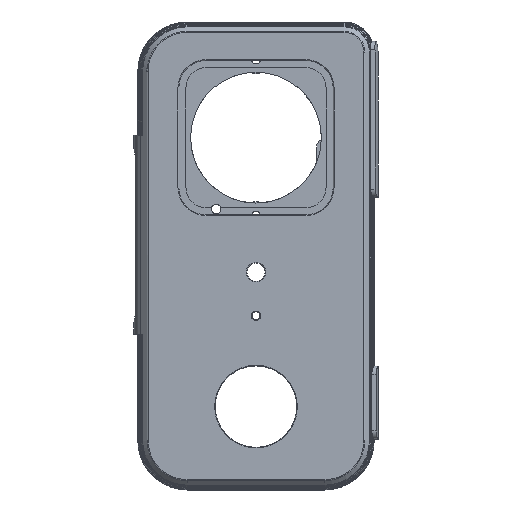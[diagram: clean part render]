
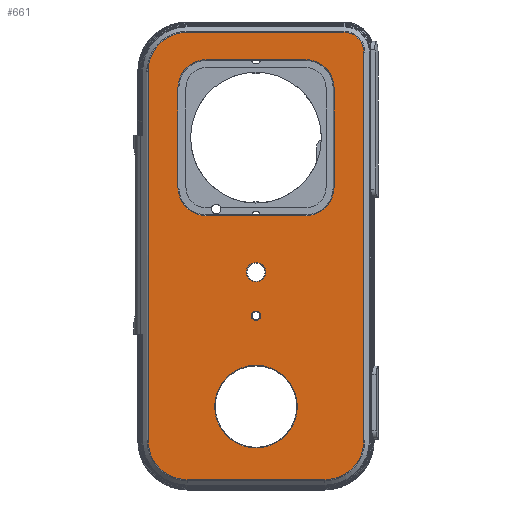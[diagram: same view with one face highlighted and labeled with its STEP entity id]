
A CAD part, top view. The second image highlights one B-rep face of the part: STEP entity #661.
In plain terms, the highlighted planar face has unit normal (0, 0, 1).
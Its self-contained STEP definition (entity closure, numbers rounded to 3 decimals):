
#129 = VERTEX_POINT('',#130);
#130 = CARTESIAN_POINT('',(21.,130.,19.4));
#138 = VERTEX_POINT('',#139);
#139 = CARTESIAN_POINT('',(51.,130.,19.4));
#145 = EDGE_CURVE('',#129,#138,#146,.T.);
#146 = LINE('',#147,#148);
#147 = CARTESIAN_POINT('',(21.,130.,19.4));
#148 = VECTOR('',#149,1.);
#149 = DIRECTION('',(1.,0.,0.));
#594 = VERTEX_POINT('',#595);
#595 = CARTESIAN_POINT('',(59.5,121.5,19.4));
#601 = EDGE_CURVE('',#138,#594,#602,.T.);
#602 = CIRCLE('',#603,8.5);
#603 = AXIS2_PLACEMENT_3D('',#604,#605,#606);
#604 = CARTESIAN_POINT('',(51.,121.5,19.4));
#605 = DIRECTION('',(0.,0.,-1.));
#606 = DIRECTION('',(0.,1.,0.));
#641 = VERTEX_POINT('',#642);
#642 = CARTESIAN_POINT('',(12.5,121.5,19.4));
#650 = EDGE_CURVE('',#641,#129,#651,.T.);
#651 = CIRCLE('',#652,8.5);
#652 = AXIS2_PLACEMENT_3D('',#653,#654,#655);
#653 = CARTESIAN_POINT('',(21.,121.5,19.4));
#654 = DIRECTION('',(0.,0.,-1.));
#655 = DIRECTION('',(-1.,0.,0.));
#661 = ADVANCED_FACE('',(#662,#707,#813,#824,#835),#846,.T.);
#662 = FACE_BOUND('',#663,.T.);
#663 = EDGE_LOOP('',(#664,#665,#666,#674,#683,#691,#700,#706));
#664 = ORIENTED_EDGE('',*,*,#145,.T.);
#665 = ORIENTED_EDGE('',*,*,#601,.T.);
#666 = ORIENTED_EDGE('',*,*,#667,.T.);
#667 = EDGE_CURVE('',#594,#668,#670,.T.);
#668 = VERTEX_POINT('',#669);
#669 = CARTESIAN_POINT('',(59.5,91.5,19.4));
#670 = LINE('',#671,#672);
#671 = CARTESIAN_POINT('',(59.5,121.5,19.4));
#672 = VECTOR('',#673,1.);
#673 = DIRECTION('',(0.,-1.,0.));
#674 = ORIENTED_EDGE('',*,*,#675,.T.);
#675 = EDGE_CURVE('',#668,#676,#678,.T.);
#676 = VERTEX_POINT('',#677);
#677 = CARTESIAN_POINT('',(51.,83.,19.4));
#678 = CIRCLE('',#679,8.5);
#679 = AXIS2_PLACEMENT_3D('',#680,#681,#682);
#680 = CARTESIAN_POINT('',(51.,91.5,19.4));
#681 = DIRECTION('',(0.,0.,-1.));
#682 = DIRECTION('',(1.,0.,0.));
#683 = ORIENTED_EDGE('',*,*,#684,.T.);
#684 = EDGE_CURVE('',#676,#685,#687,.T.);
#685 = VERTEX_POINT('',#686);
#686 = CARTESIAN_POINT('',(21.,83.,19.4));
#687 = LINE('',#688,#689);
#688 = CARTESIAN_POINT('',(51.,83.,19.4));
#689 = VECTOR('',#690,1.);
#690 = DIRECTION('',(-1.,-0.,-0.));
#691 = ORIENTED_EDGE('',*,*,#692,.T.);
#692 = EDGE_CURVE('',#685,#693,#695,.T.);
#693 = VERTEX_POINT('',#694);
#694 = CARTESIAN_POINT('',(12.5,91.5,19.4));
#695 = CIRCLE('',#696,8.5);
#696 = AXIS2_PLACEMENT_3D('',#697,#698,#699);
#697 = CARTESIAN_POINT('',(21.,91.5,19.4));
#698 = DIRECTION('',(-0.,-0.,-1.));
#699 = DIRECTION('',(0.,-1.,0.));
#700 = ORIENTED_EDGE('',*,*,#701,.T.);
#701 = EDGE_CURVE('',#693,#641,#702,.T.);
#702 = LINE('',#703,#704);
#703 = CARTESIAN_POINT('',(12.5,91.5,19.4));
#704 = VECTOR('',#705,1.);
#705 = DIRECTION('',(0.,1.,0.));
#706 = ORIENTED_EDGE('',*,*,#650,.T.);
#707 = FACE_BOUND('',#708,.T.);
#708 = EDGE_LOOP('',(#709,#720,#728,#737,#745,#754,#762,#771,#779,#788,
    #797,#806));
#709 = ORIENTED_EDGE('',*,*,#710,.F.);
#710 = EDGE_CURVE('',#711,#713,#715,.T.);
#711 = VERTEX_POINT('',#712);
#712 = CARTESIAN_POINT('',(3.516,126.5,19.4));
#713 = VERTEX_POINT('',#714);
#714 = CARTESIAN_POINT('',(3.516,126.541,19.4));
#715 = CIRCLE('',#716,11.734);
#716 = AXIS2_PLACEMENT_3D('',#717,#718,#719);
#717 = CARTESIAN_POINT('',(15.25,126.5,19.4));
#718 = DIRECTION('',(0.,-0.,-1.));
#719 = DIRECTION('',(-1.,0.,0.));
#720 = ORIENTED_EDGE('',*,*,#721,.F.);
#721 = EDGE_CURVE('',#722,#711,#724,.T.);
#722 = VERTEX_POINT('',#723);
#723 = CARTESIAN_POINT('',(3.516,15.25,19.4));
#724 = LINE('',#725,#726);
#725 = CARTESIAN_POINT('',(3.516,15.25,19.4));
#726 = VECTOR('',#727,1.);
#727 = DIRECTION('',(0.,1.,0.));
#728 = ORIENTED_EDGE('',*,*,#729,.F.);
#729 = EDGE_CURVE('',#730,#722,#732,.T.);
#730 = VERTEX_POINT('',#731);
#731 = CARTESIAN_POINT('',(15.25,3.516,19.4));
#732 = CIRCLE('',#733,11.734);
#733 = AXIS2_PLACEMENT_3D('',#734,#735,#736);
#734 = CARTESIAN_POINT('',(15.25,15.25,19.4));
#735 = DIRECTION('',(0.,-0.,-1.));
#736 = DIRECTION('',(0.,-1.,0.));
#737 = ORIENTED_EDGE('',*,*,#738,.F.);
#738 = EDGE_CURVE('',#739,#730,#741,.T.);
#739 = VERTEX_POINT('',#740);
#740 = CARTESIAN_POINT('',(56.75,3.516,19.4));
#741 = LINE('',#742,#743);
#742 = CARTESIAN_POINT('',(56.75,3.516,19.4));
#743 = VECTOR('',#744,1.);
#744 = DIRECTION('',(-1.,0.,-0.));
#745 = ORIENTED_EDGE('',*,*,#746,.F.);
#746 = EDGE_CURVE('',#747,#739,#749,.T.);
#747 = VERTEX_POINT('',#748);
#748 = CARTESIAN_POINT('',(68.484,15.25,19.4));
#749 = CIRCLE('',#750,11.734);
#750 = AXIS2_PLACEMENT_3D('',#751,#752,#753);
#751 = CARTESIAN_POINT('',(56.75,15.25,19.4));
#752 = DIRECTION('',(0.,0.,-1.));
#753 = DIRECTION('',(1.,0.,0.));
#754 = ORIENTED_EDGE('',*,*,#755,.F.);
#755 = EDGE_CURVE('',#756,#747,#758,.T.);
#756 = VERTEX_POINT('',#757);
#757 = CARTESIAN_POINT('',(68.484,132.25,19.4));
#758 = LINE('',#759,#760);
#759 = CARTESIAN_POINT('',(68.484,126.5,19.4));
#760 = VECTOR('',#761,1.);
#761 = DIRECTION('',(0.,-1.,0.));
#762 = ORIENTED_EDGE('',*,*,#763,.F.);
#763 = EDGE_CURVE('',#764,#756,#766,.T.);
#764 = VERTEX_POINT('',#765);
#765 = CARTESIAN_POINT('',(62.5,138.234,19.4));
#766 = CIRCLE('',#767,5.984);
#767 = AXIS2_PLACEMENT_3D('',#768,#769,#770);
#768 = CARTESIAN_POINT('',(62.5,132.25,19.4));
#769 = DIRECTION('',(0.,0.,-1.));
#770 = DIRECTION('',(0.,1.,-0.));
#771 = ORIENTED_EDGE('',*,*,#772,.F.);
#772 = EDGE_CURVE('',#773,#764,#775,.T.);
#773 = VERTEX_POINT('',#774);
#774 = CARTESIAN_POINT('',(15.25,138.234,19.4));
#775 = LINE('',#776,#777);
#776 = CARTESIAN_POINT('',(9.5,138.234,19.4));
#777 = VECTOR('',#778,1.);
#778 = DIRECTION('',(1.,0.,0.));
#779 = ORIENTED_EDGE('',*,*,#780,.F.);
#780 = EDGE_CURVE('',#781,#773,#783,.T.);
#781 = VERTEX_POINT('',#782);
#782 = CARTESIAN_POINT('',(3.678,128.443,19.4));
#783 = CIRCLE('',#784,11.734);
#784 = AXIS2_PLACEMENT_3D('',#785,#786,#787);
#785 = CARTESIAN_POINT('',(15.25,126.5,19.4));
#786 = DIRECTION('',(0.,-0.,-1.));
#787 = DIRECTION('',(-1.,0.,0.));
#788 = ORIENTED_EDGE('',*,*,#789,.F.);
#789 = EDGE_CURVE('',#790,#781,#792,.T.);
#790 = VERTEX_POINT('',#791);
#791 = CARTESIAN_POINT('',(3.605,127.943,19.4));
#792 = CIRCLE('',#793,11.734);
#793 = AXIS2_PLACEMENT_3D('',#794,#795,#796);
#794 = CARTESIAN_POINT('',(15.25,126.5,19.4));
#795 = DIRECTION('',(0.,-0.,-1.));
#796 = DIRECTION('',(-1.,0.,0.));
#797 = ORIENTED_EDGE('',*,*,#798,.F.);
#798 = EDGE_CURVE('',#799,#790,#801,.T.);
#799 = VERTEX_POINT('',#800);
#800 = CARTESIAN_POINT('',(3.531,127.08,19.4));
#801 = CIRCLE('',#802,11.734);
#802 = AXIS2_PLACEMENT_3D('',#803,#804,#805);
#803 = CARTESIAN_POINT('',(15.25,126.5,19.4));
#804 = DIRECTION('',(0.,0.,-1.));
#805 = DIRECTION('',(-1.,0.,0.));
#806 = ORIENTED_EDGE('',*,*,#807,.F.);
#807 = EDGE_CURVE('',#713,#799,#808,.T.);
#808 = CIRCLE('',#809,11.734);
#809 = AXIS2_PLACEMENT_3D('',#810,#811,#812);
#810 = CARTESIAN_POINT('',(15.25,126.5,19.4));
#811 = DIRECTION('',(0.,-0.,-1.));
#812 = DIRECTION('',(-1.,0.,0.));
#813 = FACE_BOUND('',#814,.T.);
#814 = EDGE_LOOP('',(#815));
#815 = ORIENTED_EDGE('',*,*,#816,.F.);
#816 = EDGE_CURVE('',#817,#817,#819,.T.);
#817 = VERTEX_POINT('',#818);
#818 = CARTESIAN_POINT('',(48.45,25.5,19.4));
#819 = CIRCLE('',#820,12.45);
#820 = AXIS2_PLACEMENT_3D('',#821,#822,#823);
#821 = CARTESIAN_POINT('',(36.,25.5,19.4));
#822 = DIRECTION('',(0.,0.,1.));
#823 = DIRECTION('',(1.,0.,0.));
#824 = FACE_BOUND('',#825,.T.);
#825 = EDGE_LOOP('',(#826));
#826 = ORIENTED_EDGE('',*,*,#827,.F.);
#827 = EDGE_CURVE('',#828,#828,#830,.T.);
#828 = VERTEX_POINT('',#829);
#829 = CARTESIAN_POINT('',(38.9,66.,19.4));
#830 = CIRCLE('',#831,2.9);
#831 = AXIS2_PLACEMENT_3D('',#832,#833,#834);
#832 = CARTESIAN_POINT('',(36.,66.,19.4));
#833 = DIRECTION('',(0.,0.,1.));
#834 = DIRECTION('',(1.,0.,0.));
#835 = FACE_BOUND('',#836,.T.);
#836 = EDGE_LOOP('',(#837));
#837 = ORIENTED_EDGE('',*,*,#838,.F.);
#838 = EDGE_CURVE('',#839,#839,#841,.T.);
#839 = VERTEX_POINT('',#840);
#840 = CARTESIAN_POINT('',(37.4,52.875,19.4));
#841 = CIRCLE('',#842,1.4);
#842 = AXIS2_PLACEMENT_3D('',#843,#844,#845);
#843 = CARTESIAN_POINT('',(36.,52.875,19.4));
#844 = DIRECTION('',(0.,0.,1.));
#845 = DIRECTION('',(1.,0.,0.));
#846 = PLANE('',#847);
#847 = AXIS2_PLACEMENT_3D('',#848,#849,#850);
#848 = CARTESIAN_POINT('',(36.235,71.364,19.4));
#849 = DIRECTION('',(0.,0.,1.));
#850 = DIRECTION('',(1.,0.,0.));
